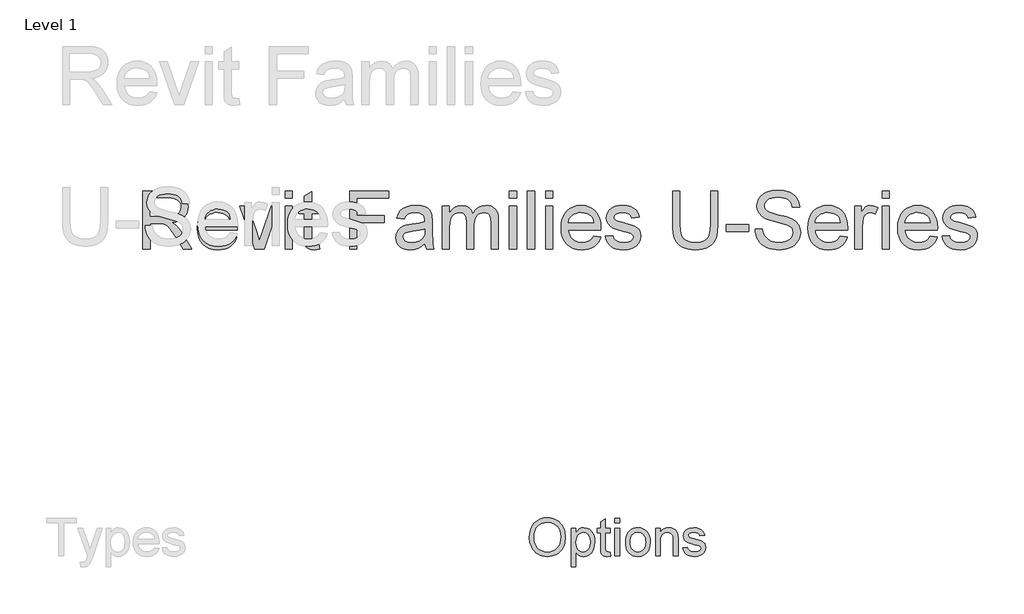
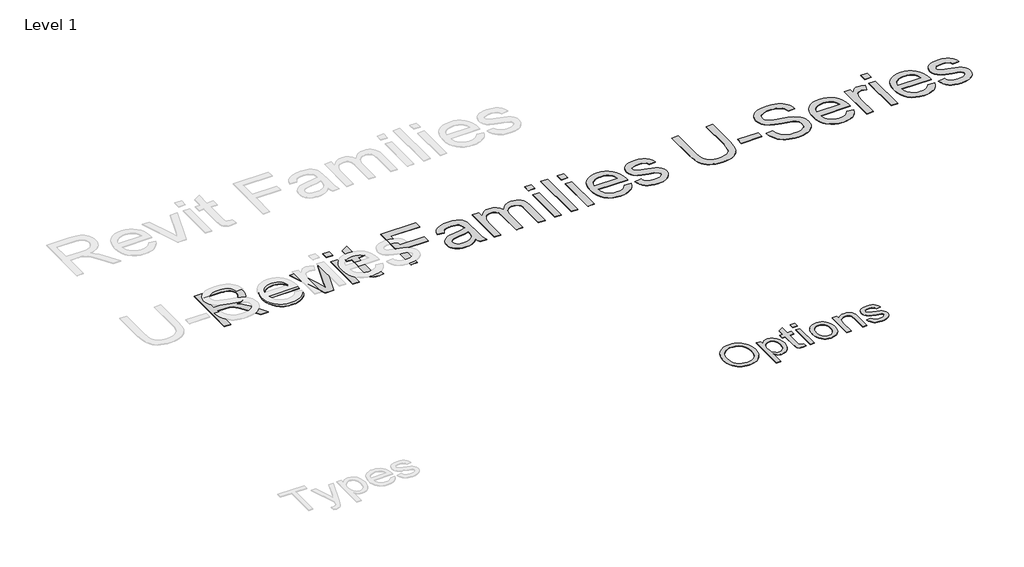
# One storey, part 29 of 29: 2 proxies.
"""IFC4 building model written with IfcOpenShell, lengths in millimetres."""

from ifc_helpers import new_model, si_unit, origin, origin_with_axes, place, context, project, spatial, polyline, outline, extrude, element, save

model = new_model("IFC4")

# Units and contexts
model_context = context("Model", 3, world=origin())
ifc_project = project(units=[si_unit("LENGTHUNIT", "METRE", prefix="MILLI")], contexts=[model_context])

# Site, building, storey
site = spatial("IfcSite", under=ifc_project)
building = spatial("IfcBuilding", under=site)
storey = spatial("IfcBuildingStorey", under=building, Name="Level 1", Elevation=0.0)

# Proxies
placement = place(None, origin())
element("IfcBuildingElementProxy", 1, Name="400mm Arial", ObjectType="400mm Arial", at=placement, inside=storey, context=model_context, shape_type="SweptSolid", body=[
    extrude(outline(polyline([(-6462.261333, 17542.0194987), (-6458.9974836, 17587.9704339), (-6449.2059353, 17628.6489968), (-6432.8866881, 17664.0551876), (-6410.0397421, 17694.1890063), (-6382.0340011, 17718.2494348), (-6350.238369, 17735.4354552), (-6314.6528458, 17745.7470674), (-6275.2774315, 17749.1842715), (-6248.9215484, 17747.57028), (-6223.892725, 17742.7283055), (-6200.1909613, 17734.6583482), (-6177.8162572, 17723.3604078), (-6157.3962762, 17709.1752161), (-6139.5586815, 17692.4435044), (-6124.3034732, 17673.1652729), (-6111.6306512, 17651.3405215), (-6101.671726, 17627.4654031), (-6094.558208, 17602.0360707), (-6088.8673936, 17546.5147639), (-6094.8570953, 17490.2522165), (-6102.3442224, 17464.4701971), (-6112.8262004, 17440.2543472), (-6126.0549528, 17418.2442857), (-6141.7824031, 17399.0796313), (-6160.0085513, 17382.7603841), (-6180.7333974, 17369.2865442), (-6226.4153339, 17351.2098396), (-6275.5643633, 17345.1842715), (-6302.3805328, 17346.8490738), (-6327.7381322, 17351.8434807), (-6351.6371616, 17360.1674923), (-6374.0776209, 17371.8211086), (-6394.473691, 17386.3530096), (-6412.2395527, 17403.3118756), (-6427.3752061, 17422.6977066), (-6439.8806512, 17444.5105025), (-6456.6661625, 17491.91403), (-6462.261333, 17542.0194987)]), holes=[polyline([(-6413.291636, 17541.541279), (-6410.843749, 17509.0761393), (-6403.5000877, 17480.2574249), (-6391.2606524, 17455.0851356), (-6374.1254429, 17433.5592715), (-6353.2959862, 17416.3194514), (-6329.9738093, 17404.0052942), (-6304.1589123, 17396.6167999), (-6275.8512951, 17394.1539684), (-6247.0594805, 17396.6407108), (-6220.9397184, 17404.1009381), (-6197.4920089, 17416.5346502), (-6176.7163519, 17433.9418472), (-6159.7066751, 17455.92202), (-6147.5569059, 17482.0746597), (-6140.2670444, 17512.3997662), (-6137.8370906, 17546.8973396), (-6141.9976019, 17590.2479552), (-6154.479136, 17627.7164684), (-6174.9588946, 17658.3583955), (-6203.1140792, 17681.2292525), (-6237.0796332, 17695.468244), (-6274.9904997, 17700.2145745), (-6302.3147776, 17697.9280866), (-6327.6663993, 17691.0686228), (-6351.0453647, 17679.6361831), (-6372.4516739, 17663.6307677), (-6390.3191573, 17642.2812471), (-6403.0816455, 17614.8164921), (-6410.7391384, 17581.2365027), (-6413.291636, 17541.541279)])]), origin_with_axes(), (0.0, 0.0, 1.0), 5.0),
    extrude(outline(polyline([(-6027.6552724, 17241.1236654), (-6027.6552724, 17639.0024533), (-5978.6855754, 17639.0024533), (-5978.6855754, 17590.9891957), (-5962.7130375, 17614.6730262), (-5944.8276209, 17631.590048), (-5923.9772421, 17641.740261), (-5899.1098179, 17645.1236654), (-5865.9931038, 17640.3892904), (-5837.0369012, 17626.1861654), (-5813.4606701, 17603.3750858), (-5796.4838709, 17572.8168472), (-5786.2260584, 17536.7351711), (-5782.8067875, 17497.353779), (-5786.6684116, 17455.4736891), (-5798.2532838, 17418.0171313), (-5817.1907838, 17386.885029), (-5843.1102913, 17363.9783055), (-5873.2979097, 17349.88278), (-5905.0397421, 17345.1842715), (-5927.5519343, 17348.328566), (-5947.6491171, 17357.7614495), (-5964.8530707, 17372.000441), (-5978.6855754, 17389.5630593), (-5978.6855754, 17241.1236654), (-6027.6552724, 17241.1236654)]), holes=[polyline([(-5978.6855754, 17492.8585139), (-5973.3892923, 17448.9579457), (-5966.7689384, 17431.9572355), (-5957.5004429, 17418.2562411), (-5934.0557222, 17400.1795366), (-5920.6386708, 17395.6603605), (-5906.0918254, 17394.1539684), (-5891.3357589, 17395.7141602), (-5877.6736199, 17400.3947355), (-5853.6311247, 17419.1170366), (-5844.0697196, 17433.3141839), (-5837.2401446, 17450.9425574), (-5831.7764845, 17496.4929836), (-5837.1086341, 17540.1544419), (-5843.7738212, 17557.2866625), (-5853.105083, 17571.2865442), (-5876.5139372, 17589.9371124), (-5889.778556, 17594.5997544), (-5904.0833027, 17596.1539684), (-5918.3432163, 17594.5011216), (-5931.7602677, 17589.5425811), (-5956.0657838, 17569.7084192), (-5965.9619426, 17554.9882191), (-5973.0306275, 17537.2731682), (-5977.2718384, 17516.5632665), (-5978.6855754, 17492.8585139)])]), origin_with_axes(), (0.0, 0.0, 1.0), 5.0),
    extrude(outline(polyline([(-5623.6552724, 17392.1454457), (-5617.5340603, 17349.8708245), (-5654.1656891, 17345.1842715), (-5677.6701872, 17347.2167052), (-5695.1969391, 17353.3140063), (-5707.5828292, 17362.7110233), (-5715.6647421, 17374.6426048), (-5720.1121853, 17395.1343188), (-5721.5946663, 17430.2117336), (-5721.5946663, 17590.0327563), (-5758.3219391, 17590.0327563), (-5758.3219391, 17639.0024533), (-5721.5946663, 17639.0024533), (-5721.5946663, 17708.918173), (-5672.6249694, 17737.7069987), (-5672.6249694, 17639.0024533), (-5623.6552724, 17639.0024533), (-5623.6552724, 17590.0327563), (-5672.6249694, 17590.0327563), (-5672.6249694, 17431.6463927), (-5670.042583, 17406.3963927), (-5661.6737383, 17397.4536843), (-5644.9838709, 17394.1539684), (-5623.6552724, 17392.1454457)])), origin_with_axes(), (0.0, 0.0, 1.0), 5.0),
    extrude(outline(polyline([(-5574.6855754, 17694.0933624), (-5574.6855754, 17743.0630593), (-5525.7158785, 17743.0630593), (-5525.7158785, 17694.0933624), (-5574.6855754, 17694.0933624)])), origin_with_axes(), (0.0, 0.0, 1.0), 5.0),
    extrude(outline(polyline([(-5574.6855754, 17351.3054836), (-5574.6855754, 17639.0024533), (-5525.7158785, 17639.0024533), (-5525.7158785, 17351.3054836), (-5574.6855754, 17351.3054836)])), origin_with_axes(), (0.0, 0.0, 1.0), 5.0),
    extrude(outline(polyline([(-5464.5037572, 17495.1539684), (-5461.8556157, 17532.4132606), (-5453.911191, 17564.5197355), (-5440.6704831, 17591.4733931), (-5422.1334921, 17613.2742336), (-5403.4709684, 17627.20836), (-5382.871655, 17637.1613074), (-5360.3355518, 17643.1330759), (-5335.8626588, 17645.1236654), (-5308.8462348, 17642.6996893), (-5284.4181749, 17635.427761), (-5262.5784791, 17623.3078806), (-5243.3271474, 17606.340048), (-5227.6146415, 17585.0981268), (-5216.391423, 17560.1559807), (-5209.6574919, 17531.5136098), (-5207.4128482, 17499.1710139), (-5211.3820716, 17449.6991862), (-5223.2897421, 17412.0393851), (-5242.7891502, 17383.8363785), (-5269.5335868, 17362.7349343), (-5301.2993302, 17349.5719372), (-5335.8626588, 17345.1842715), (-5363.273614, 17347.5992809), (-5387.9288283, 17354.8443093), (-5409.8283015, 17366.9193567), (-5428.9720338, 17383.824423), (-5444.5171628, 17405.2725764), (-5455.6208264, 17430.9768851), (-5462.2830245, 17460.9373491), (-5464.5037572, 17495.1539684)]), holes=[polyline([(-5415.5340603, 17495.2496124), (-5414.1173344, 17471.4970378), (-5409.8671569, 17450.9306019), (-5402.7835276, 17433.5503048), (-5392.8664466, 17419.3561465), (-5380.8033548, 17408.3301936), (-5367.2816929, 17400.4545129), (-5352.3014608, 17395.7291045), (-5335.8626588, 17394.1539684), (-5319.5075451, 17395.7380712), (-5304.5870906, 17400.4903794), (-5291.1012951, 17408.4108931), (-5279.0501588, 17419.4996124), (-5269.1330778, 17433.8342478), (-5262.0494485, 17451.4925101), (-5257.799271, 17472.4743993), (-5256.3825451, 17496.7799154), (-5257.8082376, 17519.7792939), (-5262.085315, 17539.8077326), (-5269.2137774, 17556.8652314), (-5279.1936247, 17570.9517904), (-5291.2895941, 17581.9777433), (-5304.766423, 17589.8534239), (-5319.6241112, 17594.5788323), (-5335.8626588, 17596.1539684), (-5352.3014608, 17594.58481), (-5367.2816929, 17589.8773349), (-5380.8033548, 17582.031543), (-5392.8664466, 17571.0474343), (-5402.7835276, 17556.8951202), (-5409.8671569, 17539.5447118), (-5414.1173344, 17518.9962092), (-5415.5340603, 17495.2496124)])]), origin_with_axes(), (0.0, 0.0, 1.0), 5.0),
    extrude(outline(polyline([(-5152.3219391, 17351.3054836), (-5152.3219391, 17639.0024533), (-5103.3522421, 17639.0024533), (-5103.3522421, 17598.8319987), (-5086.3395764, 17619.0846029), (-5065.9076398, 17633.5507487), (-5042.0564324, 17642.2304362), (-5014.7859542, 17645.1236654), (-4990.647815, 17642.7923444), (-4968.5421095, 17635.7983813), (-4950.1067402, 17625.0145271), (-4936.9796095, 17611.3135328), (-4928.0727677, 17594.7312648), (-4922.2982648, 17575.3035896), (-4919.7158785, 17527.9598396), (-4919.7158785, 17351.3054836), (-4968.6855754, 17351.3054836), (-4968.6855754, 17521.3604078), (-4970.0963235, 17546.6821408), (-4974.3285679, 17564.6871124), (-4982.1355044, 17577.5870887), (-4994.2703292, 17587.5938358), (-5009.8244249, 17594.0139353), (-5027.8891739, 17596.1539684), (-5056.5704002, 17591.3478605), (-5081.0193822, 17576.9295366), (-5090.7900084, 17565.1593543), (-5097.7690271, 17549.0732393), (-5101.9564384, 17528.6711914), (-5103.3522421, 17503.9532108), (-5103.3522421, 17351.3054836), (-5152.3219391, 17351.3054836)])), origin_with_axes(), (0.0, 0.0, 1.0), 5.0),
    extrude(outline(polyline([(-4870.7461815, 17437.0024533), (-4821.7764845, 17443.1236654), (-4814.0532364, 17422.1776427), (-4799.1088709, 17406.7789684), (-4776.847744, 17397.3102184), (-4747.1742118, 17394.1539684), (-4717.8593444, 17397.0471976), (-4697.2480754, 17405.7268851), (-4685.0534732, 17418.3040631), (-4680.9886057, 17432.8897639), (-4685.0773841, 17445.371298), (-4697.3437194, 17454.8878699), (-4747.7480754, 17468.8518851), (-4821.4895527, 17492.8106919), (-4840.1520764, 17504.8498728), (-4853.6737383, 17520.7865442), (-4861.8871616, 17539.6044893), (-4864.6249694, 17560.2874911), (-4862.4251588, 17579.2608576), (-4855.8257269, 17596.775654), (-4845.4244485, 17612.1384618), (-4831.8190982, 17624.6558624), (-4800.6869959, 17639.1459192), (-4758.5558406, 17645.1236654), (-4726.6824978, 17642.7206114), (-4698.9696663, 17635.5114495), (-4676.6846285, 17624.2015536), (-4661.0946663, 17609.496298), (-4650.7651209, 17590.3077326), (-4644.261333, 17565.5479078), (-4693.23103, 17559.4266957), (-4699.4120196, 17574.8373254), (-4711.6424883, 17586.4461086), (-4730.0419911, 17593.7270035), (-4754.730083, 17596.1539684), (-4782.8494012, 17593.8346029), (-4801.5956133, 17586.8765063), (-4812.1403576, 17576.8338927), (-4815.6552724, 17565.260976), (-4809.8209921, 17551.010029), (-4791.5529997, 17540.2022639), (-4749.3740224, 17529.7770745), (-4677.4976019, 17506.7268851), (-4658.51228, 17495.7039211), (-4644.1178671, 17480.6160896), (-4635.0436483, 17461.4155688), (-4632.0189088, 17438.0545366), (-4635.56969, 17413.9044419), (-4646.2220338, 17391.1890063), (-4663.5694533, 17371.6895982), (-4687.2054618, 17357.1875858), (-4715.7551777, 17348.1851), (-4747.8437194, 17345.1842715), (-4774.1996024, 17346.630886), (-4797.2199031, 17350.9707298), (-4816.9046214, 17358.2038027), (-4833.2537572, 17368.3301048), (-4846.6080423, 17381.3018141), (-4857.308208, 17397.0711086), (-4865.3542544, 17415.6379883), (-4870.7461815, 17437.0024533)])), origin_with_axes(), (0.0, 0.0, 1.0), 5.0),
])
element("IfcBuildingElementProxy", 2, Name="600mm Arial", ObjectType="600mm Arial", at=placement, inside=storey, context=model_context, shape_type="SweptSolid", body=[
    extrude(outline(polyline([(-10475.7189768, 20541.6162982), (-10475.7189768, 21144.3541591), (-10215.9942882, 21144.3541591), (-10146.1886797, 21140.2890631), (-10095.4025702, 21128.0937749), (-10075.8036569, 21118.4000843), (-10058.2832769, 21105.5793968), (-10042.8414302, 21089.6317123), (-10029.4781167, 21070.5570309), (-10018.6945757, 21049.3808235), (-10010.9920464, 21027.1285613), (-10006.3705289, 21003.8002443), (-10004.830023, 20979.3958725), (-10007.3822044, 20948.4386026), (-10015.0387484, 20920.0197184), (-10027.7996551, 20894.1392201), (-10045.6649245, 20870.7971075), (-10068.8644828, 20850.7383417), (-10097.6282563, 20834.7078838), (-10131.956245, 20822.7057337), (-10171.8484488, 20814.7318914), (-10147.0164141, 20798.5082954), (-10129.0269846, 20782.5054286), (-10098.1616852, 20745.9011701), (-10067.9585734, 20704.9559041), (-9967.4532123, 20541.6162982), (-10055.0091272, 20541.6162982), (-10133.4415685, 20666.5490238), (-10190.0953958, 20749.2488963), (-10211.15664, 20773.3635611), (-10229.9002277, 20788.3179642), (-10265.731934, 20802.665362), (-10309.436315, 20805.3141124), (-10400.3767442, 20805.3141124), (-10400.3767442, 20541.6162982), (-10475.7189768, 20541.6162982)]), holes=[polyline([(-10400.3767442, 20880.656345), (-10231.7396376, 20880.656345), (-10183.307973, 20883.3234894), (-10145.7288272, 20891.3249228), (-10117.4387017, 20905.194074), (-10096.8740982, 20925.464372), (-10084.3477163, 20949.983707), (-10080.1722556, 20976.5999693), (-10082.1634169, 20995.8677888), (-10088.1369008, 21013.3513806), (-10098.0927073, 21029.0507448), (-10112.0308364, 21042.9658812), (-10130.2731848, 21054.361026), (-10153.1416494, 21062.5004152), (-10180.63623, 21067.3840487), (-10212.7569267, 21069.0119265), (-10400.3767442, 21069.0119265), (-10400.3767442, 20880.656345)])]), origin_with_axes(), (0.0, 0.0, 1.0), 5.0),
    extrude(outline(polyline([(-9572.4951023, 20673.4652053), (-9498.6243976, 20664.0474262), (-9509.9505646, 20634.4605167), (-9525.24066, 20608.3868803), (-9544.4946839, 20585.826517), (-9567.7126363, 20566.7794267), (-9594.655394, 20551.6502796), (-9625.0838335, 20540.843746), (-9658.9979549, 20534.3598259), (-9696.3977583, 20532.1985191), (-9743.1463628, 20535.9279229), (-9784.7998017, 20547.116134), (-9821.358075, 20565.7631527), (-9852.8211826, 20591.8689787), (-9878.1222668, 20624.7070453), (-9896.1944698, 20663.5507855), (-9907.0377916, 20708.4001992), (-9910.6522322, 20759.2552866), (-9907.0010034, 20811.8348207), (-9896.047317, 20858.1787551), (-9877.791173, 20898.2870896), (-9852.2325714, 20932.1598243), (-9820.8522372, 20959.0703922), (-9785.1308955, 20978.2922265), (-9745.0685462, 20989.825327), (-9700.6651894, 20993.6696939), (-9657.6919738, 20989.8345241), (-9618.8298396, 20978.3290147), (-9584.0787866, 20959.1531657), (-9553.4388149, 20932.3069771), (-9528.4274378, 20898.5078188), (-9510.5621684, 20858.4730607), (-9499.8430068, 20812.2027027), (-9496.2699529, 20759.6967449), (-9496.7114113, 20739.3896588), (-9835.3099996, 20739.3896588), (-9830.9459995, 20709.3245028), (-9822.2685829, 20682.993349), (-9809.27775, 20660.3961974), (-9791.9735006, 20641.5330481), (-9771.312328, 20626.6614184), (-9748.2507255, 20616.0388258), (-9722.7886929, 20609.6652703), (-9694.9262303, 20607.5407517), (-9654.8270928, 20611.4770891), (-9621.0555256, 20623.2861011), (-9593.6115288, 20643.7035519), (-9572.4951023, 20673.4652053)]), holes=[polyline([(-9835.3099996, 20814.7318914), (-9571.6121855, 20814.7318914), (-9581.8025168, 20854.5367233), (-9590.5673053, 20870.1901022), (-9601.7785091, 20883.0107897), (-9622.3247185, 20898.4618335), (-9645.7036193, 20909.4982934), (-9671.9152115, 20916.1201693), (-9700.959495, 20918.3274613), (-9727.4515972, 20916.5662262), (-9751.7456044, 20911.2825211), (-9773.8415168, 20902.4763458), (-9793.7393342, 20890.1477004), (-9810.4365782, 20874.8668021), (-9822.9307705, 20857.2038678), (-9831.221911, 20837.1588976), (-9835.3099996, 20814.7318914)])]), origin_with_axes(), (0.0, 0.0, 1.0), 5.0),
    extrude(outline(polyline([(-9312.0346497, 20541.6162982), (-9468.0166157, 20984.2519148), (-9388.4069519, 20984.2519148), (-9293.9348555, 20719.0825727), (-9265.5343655, 20629.9079771), (-9237.7224867, 20714.0793775), (-9142.8089319, 20984.2519148), (-9063.0521154, 20984.2519148), (-9216.8267893, 20541.6162982), (-9312.0346497, 20541.6162982)])), origin_with_axes(), (0.0, 0.0, 1.0), 5.0),
    extrude(outline(polyline([(-8997.1276618, 21069.0119265), (-8997.1276618, 21144.3541591), (-8921.7854292, 21144.3541591), (-8921.7854292, 21069.0119265), (-8997.1276618, 21069.0119265)])), origin_with_axes(), (0.0, 0.0, 1.0), 5.0),
    extrude(outline(polyline([(-8997.1276618, 20541.6162982), (-8997.1276618, 20984.2519148), (-8921.7854292, 20984.2519148), (-8921.7854292, 20541.6162982), (-8997.1276618, 20541.6162982)])), origin_with_axes(), (0.0, 0.0, 1.0), 5.0),
    extrude(outline(polyline([(-8648.669836, 20604.450543), (-8639.2520569, 20539.4090062), (-8695.6115786, 20532.1985191), (-8731.7743787, 20535.3255161), (-8758.7401289, 20544.706507), (-8777.7964163, 20559.1642694), (-8790.2308277, 20577.5215809), (-8797.0734328, 20609.0490679), (-8799.3543012, 20663.0173566), (-8799.3543012, 20908.9096822), (-8855.8609757, 20908.9096822), (-8855.8609757, 20984.2519148), (-8799.3543012, 20984.2519148), (-8799.3543012, 21091.8206102), (-8724.0120686, 21136.1136024), (-8724.0120686, 20984.2519148), (-8648.669836, 20984.2519148), (-8648.669836, 20908.9096822), (-8724.0120686, 20908.9096822), (-8724.0120686, 20665.2246486), (-8720.0389431, 20626.3763099), (-8707.1630732, 20612.6175233), (-8696.2921603, 20608.8099446), (-8681.48491, 20607.5407517), (-8648.669836, 20604.450543)])), origin_with_axes(), (0.0, 0.0, 1.0), 5.0),
    extrude(outline(polyline([(-8328.4653474, 20541.6162982), (-8328.4653474, 21144.3541591), (-7923.5008471, 21144.3541591), (-7923.5008471, 21069.0119265), (-8253.1231148, 21069.0119265), (-8253.1231148, 20890.074124), (-7970.5897425, 20890.074124), (-7970.5897425, 20814.7318914), (-8253.1231148, 20814.7318914), (-8253.1231148, 20541.6162982), (-8328.4653474, 20541.6162982)])), origin_with_axes(), (0.0, 0.0, 1.0), 5.0),
    extrude(outline(polyline([(-7546.789684, 20598.1229727), (-7582.7869373, 20567.2576733), (-7619.8510483, 20547.0609517), (-7658.8281457, 20535.9141273), (-7700.564358, 20532.1985191), (-7734.1105975, 20534.4334023), (-7763.5273615, 20541.1380516), (-7788.8146501, 20552.3124672), (-7809.9724634, 20567.9566491), (-7826.6789045, 20587.0773158), (-7838.6120767, 20608.6811859), (-7845.77198, 20632.7682596), (-7848.1586145, 20659.3385367), (-7844.5533709, 20690.5717181), (-7833.7376403, 20718.9354199), (-7817.0541918, 20743.2156316), (-7795.8457948, 20762.1983425), (-7770.9217896, 20776.5457403), (-7743.0915167, 20786.9200126), (-7677.9028271, 20798.250778), (-7600.8683373, 20810.1701547), (-7547.2311424, 20824.1496705), (-7546.789684, 20840.9250895), (-7551.9768202, 20874.5495038), (-7558.4607403, 20887.0023094), (-7567.5382286, 20896.5488472), (-7583.2283957, 20906.0769908), (-7602.3398653, 20912.8828077), (-7650.8267123, 20918.3274613), (-7695.7083157, 20914.7038236), (-7727.0518617, 20903.8329107), (-7748.4258056, 20883.7281596), (-7763.3986028, 20852.4030077), (-7838.7408354, 20861.8207868), (-7825.6626305, 20903.0235703), (-7806.1464906, 20935.3971858), (-7778.3714, 20960.1556441), (-7740.5163427, 20978.5129557), (-7694.2183936, 20989.8805093), (-7641.1146276, 20993.6696939), (-7590.1813654, 20990.3219677), (-7549.8063164, 20980.2787893), (-7519.3640813, 20965.1772334), (-7498.2292607, 20946.6543749), (-7484.2129567, 20923.7537207), (-7475.1262714, 20895.5187776), (-7471.4474514, 20829.594324), (-7471.4474514, 20735.8579917), (-7467.6214787, 20604.9655778), (-7461.956096, 20572.6103563), (-7452.6118933, 20541.6162982), (-7527.9541259, 20541.6162982), (-7540.0206553, 20567.8094963), (-7546.789684, 20598.1229727)]), holes=[polyline([(-7546.789684, 20748.8074379), (-7597.4102466, 20736.2626619), (-7668.3378952, 20725.7044486), (-7733.1587028, 20713.4907664), (-7750.0260923, 20705.1398451), (-7762.515686, 20693.6251386), (-7770.2412079, 20679.8295638), (-7772.8163819, 20664.6360374), (-7767.2061814, 20642.2320239), (-7750.3755802, 20623.8747123), (-7722.69246, 20611.6242419), (-7684.524703, 20607.5407517), (-7644.0576836, 20612.0473062), (-7608.2995536, 20625.5669695), (-7579.3104524, 20645.4877795), (-7559.1505191, 20669.1977741), (-7550.2109866, 20693.6251386), (-7547.2311424, 20727.4702822), (-7546.789684, 20748.8074379)])]), origin_with_axes(), (0.0, 0.0, 1.0), 5.0),
    extrude(outline(polyline([(-7367.8518816, 20541.6162982), (-7367.8518816, 20984.2519148), (-7292.509649, 20984.2519148), (-7292.509649, 20911.4112798), (-7269.8481181, 20944.8701472), (-7240.7118641, 20971.0817394), (-7206.0941683, 20988.0227053), (-7166.9883122, 20993.6696939), (-7125.086553, 20987.9123407), (-7107.2534733, 20980.7156491), (-7091.4989268, 20970.640281), (-7066.4093747, 20942.993949), (-7050.0018378, 20906.113779), (-7022.5394468, 20944.4194918), (-6991.2142949, 20971.7807152), (-6956.0263821, 20988.1974492), (-6916.9757083, 20993.6696939), (-6886.8139832, 20991.393424), (-6860.3402751, 20984.5646145), (-6837.5545841, 20973.1832653), (-6818.45691, 20957.2493764), (-6803.3599526, 20936.5790068), (-6792.5764116, 20910.9882155), (-6786.106287, 20880.4770025), (-6783.9495788, 20845.0453678), (-6783.9495788, 20541.6162982), (-6859.2918115, 20541.6162982), (-6859.2918115, 20812.6717523), (-6861.0392509, 20850.2508981), (-6866.2815694, 20875.5795734), (-6876.1040186, 20892.9252095), (-6891.5918506, 20906.5552374), (-6911.5126607, 20915.3844053), (-6934.6340441, 20918.3274613), (-6955.9849954, 20916.442066), (-6975.4505514, 20910.7858804), (-6993.0307123, 20901.3589042), (-7008.7254779, 20888.1611377), (-7021.6335374, 20870.8063045), (-7030.8535799, 20848.9081288), (-7036.3856054, 20822.4666104), (-7038.2296139, 20791.4817493), (-7038.2296139, 20541.6162982), (-7113.5718465, 20541.6162982), (-7113.5718465, 20821.0594617), (-7117.9312482, 20863.6601968), (-7123.3805002, 20880.3804335), (-7131.0094531, 20894.0472496), (-7141.1216094, 20904.6698422), (-7154.0204719, 20912.2574083), (-7169.7060405, 20916.809948), (-7188.1783151, 20918.3274613), (-7217.2042046, 20914.2807593), (-7243.9492256, 20902.1406535), (-7266.0221453, 20882.2014493), (-7281.0317307, 20854.7574525), (-7289.6401694, 20816.681666), (-7292.509649, 20764.8470929), (-7292.509649, 20541.6162982), (-7367.8518816, 20541.6162982)])), origin_with_axes(), (0.0, 0.0, 1.0), 5.0),
    extrude(outline(polyline([(-6670.9362299, 21069.0119265), (-6670.9362299, 21144.3541591), (-6595.5939973, 21144.3541591), (-6595.5939973, 21069.0119265), (-6670.9362299, 21069.0119265)])), origin_with_axes(), (0.0, 0.0, 1.0), 5.0),
    extrude(outline(polyline([(-6670.9362299, 20541.6162982), (-6670.9362299, 20984.2519148), (-6595.5939973, 20984.2519148), (-6595.5939973, 20541.6162982), (-6670.9362299, 20541.6162982)])), origin_with_axes(), (0.0, 0.0, 1.0), 5.0),
    extrude(outline(polyline([(-6482.5806484, 20541.6162982), (-6482.5806484, 21144.3541591), (-6407.2384158, 21144.3541591), (-6407.2384158, 20541.6162982), (-6482.5806484, 20541.6162982)])), origin_with_axes(), (0.0, 0.0, 1.0), 5.0),
    extrude(outline(polyline([(-6294.2250669, 21069.0119265), (-6294.2250669, 21144.3541591), (-6218.8828342, 21144.3541591), (-6218.8828342, 21069.0119265), (-6294.2250669, 21069.0119265)])), origin_with_axes(), (0.0, 0.0, 1.0), 5.0),
    extrude(outline(polyline([(-6294.2250669, 20541.6162982), (-6294.2250669, 20984.2519148), (-6218.8828342, 20984.2519148), (-6218.8828342, 20541.6162982), (-6294.2250669, 20541.6162982)])), origin_with_axes(), (0.0, 0.0, 1.0), 5.0),
    extrude(outline(polyline([(-5795.9656926, 20673.4652053), (-5722.094988, 20664.0474262), (-5733.4211549, 20634.4605167), (-5748.7112503, 20608.3868803), (-5767.9652742, 20585.826517), (-5791.1832267, 20566.7794267), (-5818.1259843, 20551.6502796), (-5848.5544238, 20540.843746), (-5882.4685452, 20534.3598259), (-5919.8683486, 20532.1985191), (-5966.6169531, 20535.9279229), (-6008.270392, 20547.116134), (-6044.8286653, 20565.7631527), (-6076.2917729, 20591.8689787), (-6101.5928571, 20624.7070453), (-6119.6650602, 20663.5507855), (-6130.508382, 20708.4001992), (-6134.1228226, 20759.2552866), (-6130.4715938, 20811.8348207), (-6119.5179074, 20858.1787551), (-6101.2617633, 20898.2870896), (-6075.7031617, 20932.1598243), (-6044.3228275, 20959.0703922), (-6008.6014858, 20978.2922265), (-5968.5391365, 20989.825327), (-5924.1357797, 20993.6696939), (-5881.1625642, 20989.8345241), (-5842.3004299, 20978.3290147), (-5807.5493769, 20959.1531657), (-5776.9094052, 20932.3069771), (-5751.8980281, 20898.5078188), (-5734.0327587, 20858.4730607), (-5723.3135971, 20812.2027027), (-5719.7405432, 20759.6967449), (-5720.1820016, 20739.3896588), (-6058.7805899, 20739.3896588), (-6054.4165898, 20709.3245028), (-6045.7391732, 20682.993349), (-6032.7483403, 20660.3961974), (-6015.4440909, 20641.5330481), (-5994.7829184, 20626.6614184), (-5971.7213158, 20616.0388258), (-5946.2592832, 20609.6652703), (-5918.3968206, 20607.5407517), (-5878.2976831, 20611.4770891), (-5844.526116, 20623.2861011), (-5817.0821191, 20643.7035519), (-5795.9656926, 20673.4652053)]), holes=[polyline([(-6058.7805899, 20814.7318914), (-5795.0827758, 20814.7318914), (-5805.2731071, 20854.5367233), (-5814.0378956, 20870.1901022), (-5825.2490994, 20883.0107897), (-5845.7953088, 20898.4618335), (-5869.1742096, 20909.4982934), (-5895.3858018, 20916.1201693), (-5924.4300853, 20918.3274613), (-5950.9221875, 20916.5662262), (-5975.2161947, 20911.2825211), (-5997.3121071, 20902.4763458), (-6017.2099245, 20890.1477004), (-6033.9071685, 20874.8668021), (-6046.4013608, 20857.2038678), (-6054.6925013, 20837.1588976), (-6058.7805899, 20814.7318914)])]), origin_with_axes(), (0.0, 0.0, 1.0), 5.0),
    extrude(outline(polyline([(-5672.6516478, 20673.4652053), (-5597.3094152, 20682.8829844), (-5592.7568755, 20665.7028952), (-5585.4268268, 20650.6565216), (-5575.3192689, 20637.7438635), (-5562.4342021, 20626.9649211), (-5546.7348379, 20618.466847), (-5528.1843883, 20612.3967941), (-5482.5302327, 20607.5407517), (-5437.4279001, 20611.9921239), (-5419.898323, 20617.5563391), (-5405.7164721, 20625.3462403), (-5386.9544904, 20644.6968333), (-5382.2639949, 20655.530958), (-5380.7004964, 20667.137635), (-5382.273192, 20677.3095721), (-5386.9912786, 20686.3410751), (-5405.8636249, 20700.9827785), (-5434.0801739, 20710.5477104), (-5483.4131495, 20722.467087), (-5552.1702944, 20742.3511089), (-5596.8679568, 20759.328863), (-5625.5811465, 20777.8517214), (-5646.3848734, 20802.3710564), (-5659.0216199, 20831.3233694), (-5663.2338687, 20863.145162), (-5659.8493544, 20892.3365983), (-5649.6958113, 20919.2839545), (-5633.6929445, 20942.9203726), (-5612.760459, 20962.1789951), (-5591.9567322, 20974.3007068), (-5564.8622232, 20984.472644), (-5533.5370713, 20991.3704314), (-5500.0414157, 20993.6696939), (-5451.0027457, 20989.9724798), (-5408.3652225, 20978.8808377), (-5374.0786205, 20961.4800193), (-5350.0927144, 20938.8552766), (-5334.2002122, 20909.3327465), (-5324.193822, 20871.2385659), (-5399.5360546, 20861.8207868), (-5409.0458042, 20885.5307814), (-5427.8629682, 20903.3914523), (-5456.1714877, 20914.593459), (-5494.1553038, 20918.3274613), (-5537.4182264, 20914.7590059), (-5566.2601748, 20904.0536399), (-5582.4837708, 20888.6025961), (-5587.8916361, 20870.7971075), (-5585.647556, 20859.2088246), (-5578.9153154, 20848.8713406), (-5567.400609, 20839.6375025), (-5550.809131, 20832.2430744), (-5485.9147471, 20816.2034194), (-5375.3294193, 20780.7395951), (-5346.1195889, 20763.7802351), (-5323.9730928, 20740.5668812), (-5310.0119711, 20711.025957), (-5305.3582638, 20675.0838861), (-5310.8213115, 20637.9278045), (-5327.2104543, 20602.979015), (-5353.9002931, 20572.9782383), (-5390.2654283, 20550.6661953), (-5434.1905385, 20536.8154382), (-5483.5603023, 20532.1985191), (-5524.1100952, 20534.4242052), (-5559.5279343, 20541.1012634), (-5589.8138195, 20552.2296938), (-5614.967751, 20567.8094963), (-5635.5139604, 20587.7670945), (-5651.9766797, 20612.0289121), (-5664.3559088, 20640.594949), (-5672.6516478, 20673.4652053)])), origin_with_axes(), (0.0, 0.0, 1.0), 5.0),
    extrude(outline(polyline([(-4580.1892749, 21144.3541591), (-4504.8470423, 21144.3541591), (-4504.8470423, 20796.6320973), (-4509.9606021, 20715.2014176), (-4516.3525517, 20681.5080254), (-4525.3012813, 20652.4959316), (-4537.5793428, 20627.0660886), (-4553.9592887, 20604.1194492), (-4574.4411188, 20583.6560132), (-4599.0248331, 20565.6757807), (-4627.7380228, 20551.0294788), (-4660.6082791, 20540.5678345), (-4697.6356019, 20534.290848), (-4738.8199913, 20532.1985191), (-4778.9881066, 20534.019535), (-4815.3210522, 20539.4825826), (-4847.8188279, 20548.587662), (-4876.4814338, 20561.3347731), (-4901.3134685, 20577.5353765), (-4922.3195304, 20597.0009326), (-4939.4996196, 20619.7314414), (-4952.853736, 20645.7269028), (-4962.8647248, 20675.8794309), (-4970.0154311, 20711.0811393), (-4974.3058549, 20751.3320281), (-4975.7359961, 20796.6320973), (-4975.7359961, 21144.3541591), (-4900.3937635, 21144.3541591), (-4900.3937635, 20799.2808476), (-4896.6781554, 20731.5721664), (-4885.5313309, 20684.4280887), (-4876.7665424, 20667.050263), (-4865.3346094, 20651.7785617), (-4851.2355319, 20638.6129848), (-4834.46931, 20627.5535323), (-4794.2230197, 20612.5439469), (-4745.8833256, 20607.5407517), (-4704.3586454, 20610.0147582), (-4669.253506, 20617.4367774), (-4640.5679074, 20629.8068095), (-4618.3018496, 20647.1248544), (-4601.6275982, 20671.4786425), (-4589.7174186, 20704.9559041), (-4582.5713109, 20747.5566391), (-4580.1892749, 20799.2808476), (-4580.1892749, 21144.3541591)])), origin_with_axes(), (0.0, 0.0, 1.0), 5.0),
    extrude(outline(polyline([(-4420.0870306, 20720.5541007), (-4420.0870306, 20795.8963333), (-4184.6425537, 20795.8963333), (-4184.6425537, 20720.5541007), (-4420.0870306, 20720.5541007)])), origin_with_axes(), (0.0, 0.0, 1.0), 5.0),
    extrude(outline(polyline([(-4118.7181002, 20748.8074379), (-4043.3758676, 20748.8074379), (-4034.7306407, 20706.9976491), (-4019.0956559, 20673.3916289), (-3994.7050796, 20646.7201842), (-3959.7930783, 20625.7141223), (-3917.1187668, 20612.0840944), (-3869.4412603, 20607.5407517), (-3827.4659246, 20610.9804484), (-3790.7145133, 20621.2995384), (-3760.9344658, 20637.6334989), (-3739.8732216, 20659.1178075), (-3727.3468396, 20683.7842952), (-3723.171379, 20709.6647936), (-3726.2983759, 20734.8831044), (-3735.6793668, 20756.6801126), (-3754.7356542, 20775.2765474), (-3786.8885405, 20790.8931381), (-3896.5909515, 20819.6615102), (-3968.6038521, 20838.6994034), (-4014.6810719, 20856.8175917), (-4052.1866414, 20882.1646611), (-4078.7661155, 20912.8828077), (-4094.6034354, 20948.3098439), (-4099.882542, 20987.783582), (-4098.2500657, 21010.2197851), (-4093.3526366, 21031.9110273), (-4085.1902548, 21052.8573084), (-4073.7629204, 21073.0586284), (-4059.1993919, 21091.6918515), (-4041.6284281, 21107.9338416), (-4021.050029, 21121.7845987), (-3997.4641946, 21133.2441229), (-3944.4523991, 21148.6399843), (-3885.7752208, 21153.7719382), (-3822.2052121, 21148.4008611), (-3766.5814544, 21132.2876297), (-3742.2460604, 21120.2854796), (-3720.8905106, 21105.7633378), (-3702.5148049, 21088.7212044), (-3687.1189434, 21069.1590793), (-3674.8224878, 21047.6471796), (-3665.7449995, 21024.7557225), (-3659.8864787, 21000.4847078), (-3657.2469254, 20974.8341357), (-3732.589158, 20974.8341357), (-3737.6291414, 20998.8752241), (-3746.4215211, 21019.7893155), (-3758.9662971, 21037.57641), (-3775.2634695, 21052.2365075), (-3795.6165409, 21063.6960317), (-3820.3290139, 21071.8814061), (-3849.4008886, 21076.7926307), (-3882.8321649, 21078.4297056), (-3917.330299, 21076.8110248), (-3946.8068438, 21071.9549825), (-3971.2617995, 21063.8615786), (-3990.6951659, 21052.5308131), (-4005.5024162, 21038.9099822), (-4016.0790235, 21023.9463821), (-4022.4249879, 21007.6400126), (-4024.5403094, 20989.9908739), (-4023.0411903, 20974.8065446), (-4018.5438329, 20961.0385609), (-4011.0482372, 20948.6869229), (-4000.5544033, 20937.7516306), (-3984.0365017, 20927.3957525), (-3958.0272447, 20916.9295097), (-3877.5346641, 20895.6659304), (-3794.4669096, 20875.4692088), (-3744.2142291, 20857.8476613), (-3701.2640062, 20830.514029), (-3684.6587326, 20814.4467829), (-3671.3000177, 20796.7792501), (-3661.0315115, 20777.6034011), (-3653.6968642, 20757.0112064), (-3647.8291464, 20711.57778), (-3649.516805, 20688.0103397), (-3654.579781, 20665.1326781), (-3663.0180742, 20642.9447953), (-3674.8316848, 20621.4466912), (-3689.8136791, 20601.4706988), (-3707.7571234, 20583.8491513), (-3728.6620177, 20568.5820485), (-3752.5283622, 20555.6693904), (-3778.6617794, 20545.4008842), (-3806.3678922, 20538.066237), (-3866.4982043, 20532.1985191), (-3905.0384418, 20533.7804117), (-3940.3137266, 20538.5260894), (-3972.3240587, 20546.4355523), (-4001.0694381, 20557.5088004), (-4026.7246088, 20571.7642277), (-4049.4643146, 20589.2202284), (-4069.2885556, 20609.8768024), (-4086.1973318, 20633.7339498), (-4099.8181627, 20660.0191184), (-4109.7785677, 20687.9597559), (-4116.0785469, 20717.5558624), (-4118.7181002, 20748.8074379)])), origin_with_axes(), (0.0, 0.0, 1.0), 5.0),
    extrude(outline(polyline([(-3234.3297838, 20673.4652053), (-3160.4590791, 20664.0474262), (-3171.7852461, 20634.4605167), (-3187.0753415, 20608.3868803), (-3206.3293654, 20585.826517), (-3229.5473178, 20566.7794267), (-3256.4900755, 20551.6502796), (-3286.918515, 20540.843746), (-3320.8326364, 20534.3598259), (-3358.2324398, 20532.1985191), (-3404.9810443, 20535.9279229), (-3446.6344832, 20547.116134), (-3483.1927565, 20565.7631527), (-3514.6558641, 20591.8689787), (-3539.9569483, 20624.7070453), (-3558.0291513, 20663.5507855), (-3568.8724731, 20708.4001992), (-3572.4869137, 20759.2552866), (-3568.8356849, 20811.8348207), (-3557.8819985, 20858.1787551), (-3539.6258545, 20898.2870896), (-3514.0672529, 20932.1598243), (-3482.6869187, 20959.0703922), (-3446.965577, 20978.2922265), (-3406.9032277, 20989.825327), (-3362.4998709, 20993.6696939), (-3319.5266553, 20989.8345241), (-3280.6645211, 20978.3290147), (-3245.9134681, 20959.1531657), (-3215.2734964, 20932.3069771), (-3190.2621193, 20898.5078188), (-3172.3968499, 20858.4730607), (-3161.6776883, 20812.2027027), (-3158.1046344, 20759.6967449), (-3158.5460928, 20739.3896588), (-3497.1446811, 20739.3896588), (-3492.780681, 20709.3245028), (-3484.1032644, 20682.993349), (-3471.1124314, 20660.3961974), (-3453.8081821, 20641.5330481), (-3433.1470095, 20626.6614184), (-3410.085407, 20616.0388258), (-3384.6233744, 20609.6652703), (-3356.7609118, 20607.5407517), (-3316.6617743, 20611.4770891), (-3282.8902071, 20623.2861011), (-3255.4462103, 20643.7035519), (-3234.3297838, 20673.4652053)]), holes=[polyline([(-3497.1446811, 20814.7318914), (-3233.446867, 20814.7318914), (-3243.6371983, 20854.5367233), (-3252.4019868, 20870.1901022), (-3263.6131906, 20883.0107897), (-3284.1594, 20898.4618335), (-3307.5383008, 20909.4982934), (-3333.749893, 20916.1201693), (-3362.7941765, 20918.3274613), (-3389.2862787, 20916.5662262), (-3413.5802859, 20911.2825211), (-3435.6761983, 20902.4763458), (-3455.5740157, 20890.1477004), (-3472.2712597, 20874.8668021), (-3484.765452, 20857.2038678), (-3493.0565925, 20837.1588976), (-3497.1446811, 20814.7318914)])]), origin_with_axes(), (0.0, 0.0, 1.0), 5.0),
    extrude(outline(polyline([(-3082.7624018, 20541.6162982), (-3082.7624018, 20984.2519148), (-3016.8379482, 20984.2519148), (-3016.8379482, 20918.7689197), (-2992.4841601, 20956.7343416), (-2970.0433584, 20979.1015669), (-2947.5289803, 20990.0276621), (-2922.9544631, 20993.6696939), (-2885.4304996, 20987.8571584), (-2847.3179249, 20970.4195518), (-2872.4810533, 20902.8764175), (-2898.968557, 20914.4647003), (-2925.4560606, 20918.3274613), (-2947.9520446, 20914.6118531), (-2968.0567957, 20903.4650287), (-2984.2987858, 20885.7331165), (-2995.2064869, 20862.2622452), (-3004.3667486, 20820.176545), (-3007.4201692, 20774.264872), (-3007.4201692, 20541.6162982), (-3082.7624018, 20541.6162982)])), origin_with_axes(), (0.0, 0.0, 1.0), 5.0),
    extrude(outline(polyline([(-2800.2290295, 21069.0119265), (-2800.2290295, 21144.3541591), (-2724.8867969, 21144.3541591), (-2724.8867969, 21069.0119265), (-2800.2290295, 21069.0119265)])), origin_with_axes(), (0.0, 0.0, 1.0), 5.0),
    extrude(outline(polyline([(-2800.2290295, 20541.6162982), (-2800.2290295, 20984.2519148), (-2724.8867969, 20984.2519148), (-2724.8867969, 20541.6162982), (-2800.2290295, 20541.6162982)])), origin_with_axes(), (0.0, 0.0, 1.0), 5.0),
    extrude(outline(polyline([(-2301.9696552, 20673.4652053), (-2228.0989506, 20664.0474262), (-2239.4251175, 20634.4605167), (-2254.7152129, 20608.3868803), (-2273.9692368, 20585.826517), (-2297.1871893, 20566.7794267), (-2324.1299469, 20551.6502796), (-2354.5583864, 20540.843746), (-2388.4725078, 20534.3598259), (-2425.8723112, 20532.1985191), (-2472.6209157, 20535.9279229), (-2514.2743546, 20547.116134), (-2550.8326279, 20565.7631527), (-2582.2957355, 20591.8689787), (-2607.5968197, 20624.7070453), (-2625.6690228, 20663.5507855), (-2636.5123446, 20708.4001992), (-2640.1267852, 20759.2552866), (-2636.4755564, 20811.8348207), (-2625.52187, 20858.1787551), (-2607.265726, 20898.2870896), (-2581.7071243, 20932.1598243), (-2550.3267901, 20959.0703922), (-2514.6054484, 20978.2922265), (-2474.5430991, 20989.825327), (-2430.1397423, 20993.6696939), (-2387.1665268, 20989.8345241), (-2348.3043925, 20978.3290147), (-2313.5533395, 20959.1531657), (-2282.9133679, 20932.3069771), (-2257.9019907, 20898.5078188), (-2240.0367213, 20858.4730607), (-2229.3175597, 20812.2027027), (-2225.7445058, 20759.6967449), (-2226.1859642, 20739.3896588), (-2564.7845526, 20739.3896588), (-2560.4205524, 20709.3245028), (-2551.7431358, 20682.993349), (-2538.7523029, 20660.3961974), (-2521.4480535, 20641.5330481), (-2500.786881, 20626.6614184), (-2477.7252784, 20616.0388258), (-2452.2632458, 20609.6652703), (-2424.4007832, 20607.5407517), (-2384.3016457, 20611.4770891), (-2350.5300786, 20623.2861011), (-2323.0860817, 20643.7035519), (-2301.9696552, 20673.4652053)]), holes=[polyline([(-2564.7845526, 20814.7318914), (-2301.0867384, 20814.7318914), (-2311.2770697, 20854.5367233), (-2320.0418582, 20870.1901022), (-2331.253062, 20883.0107897), (-2351.7992714, 20898.4618335), (-2375.1781722, 20909.4982934), (-2401.3897644, 20916.1201693), (-2430.4340479, 20918.3274613), (-2456.9261501, 20916.5662262), (-2481.2201574, 20911.2825211), (-2503.3160697, 20902.4763458), (-2523.2138871, 20890.1477004), (-2539.9111312, 20874.8668021), (-2552.4053234, 20857.2038678), (-2560.6964639, 20837.1588976), (-2564.7845526, 20814.7318914)])]), origin_with_axes(), (0.0, 0.0, 1.0), 5.0),
    extrude(outline(polyline([(-2178.6556104, 20673.4652053), (-2103.3133778, 20682.8829844), (-2098.7608381, 20665.7028952), (-2091.4307894, 20650.6565216), (-2081.3232315, 20637.7438635), (-2068.4381647, 20626.9649211), (-2052.7388005, 20618.466847), (-2034.1883509, 20612.3967941), (-1988.5341953, 20607.5407517), (-1943.4318627, 20611.9921239), (-1925.9022856, 20617.5563391), (-1911.7204347, 20625.3462403), (-1892.958453, 20644.6968333), (-1888.2679575, 20655.530958), (-1886.704459, 20667.137635), (-1888.2771546, 20677.3095721), (-1892.9952412, 20686.3410751), (-1911.8675875, 20700.9827785), (-1940.0841365, 20710.5477104), (-1989.4171121, 20722.467087), (-2058.174257, 20742.3511089), (-2102.8719194, 20759.328863), (-2131.5851091, 20777.8517214), (-2152.388836, 20802.3710564), (-2165.0255825, 20831.3233694), (-2169.2378313, 20863.145162), (-2165.853317, 20892.3365983), (-2155.6997739, 20919.2839545), (-2139.6969071, 20942.9203726), (-2118.7644216, 20962.1789951), (-2097.9606948, 20974.3007068), (-2070.8661858, 20984.472644), (-2039.5410339, 20991.3704314), (-2006.0453783, 20993.6696939), (-1957.0067083, 20989.9724798), (-1914.3691851, 20978.8808377), (-1880.0825831, 20961.4800193), (-1856.096677, 20938.8552766), (-1840.2041749, 20909.3327465), (-1830.1977846, 20871.2385659), (-1905.5400172, 20861.8207868), (-1915.0497668, 20885.5307814), (-1933.8669308, 20903.3914523), (-1962.1754504, 20914.593459), (-2000.1592664, 20918.3274613), (-2043.422189, 20914.7590059), (-2072.2641374, 20904.0536399), (-2088.4877334, 20888.6025961), (-2093.8955987, 20870.7971075), (-2091.6515186, 20859.2088246), (-2084.919278, 20848.8713406), (-2073.4045716, 20839.6375025), (-2056.8130936, 20832.2430744), (-1991.9187097, 20816.2034194), (-1881.3333819, 20780.7395951), (-1852.1235515, 20763.7802351), (-1829.9770554, 20740.5668812), (-1816.0159337, 20711.025957), (-1811.3622264, 20675.0838861), (-1816.8252741, 20637.9278045), (-1833.2144169, 20602.979015), (-1859.9042557, 20572.9782383), (-1896.2693909, 20550.6661953), (-1940.1945011, 20536.8154382), (-1989.5642649, 20532.1985191), (-2030.1140578, 20534.4242052), (-2065.5318969, 20541.1012634), (-2095.8177822, 20552.2296938), (-2120.9717136, 20567.8094963), (-2141.517923, 20587.7670945), (-2157.9806423, 20612.0289121), (-2170.3598714, 20640.594949), (-2178.6556104, 20673.4652053)])), origin_with_axes(), (0.0, 0.0, 1.0), 5.0),
])

save(model, "model.ifc")
